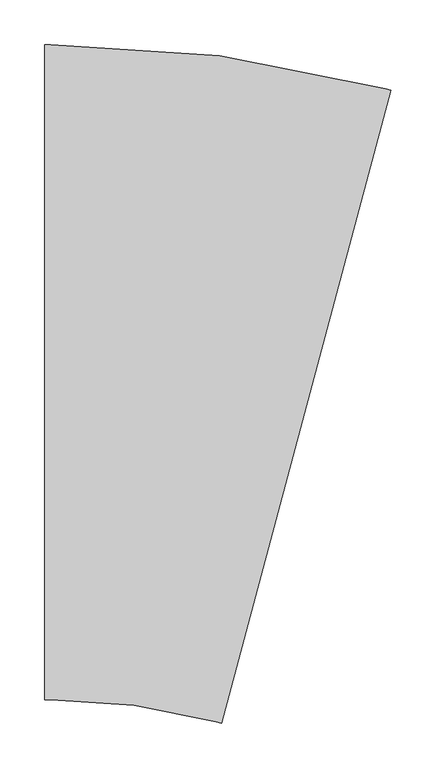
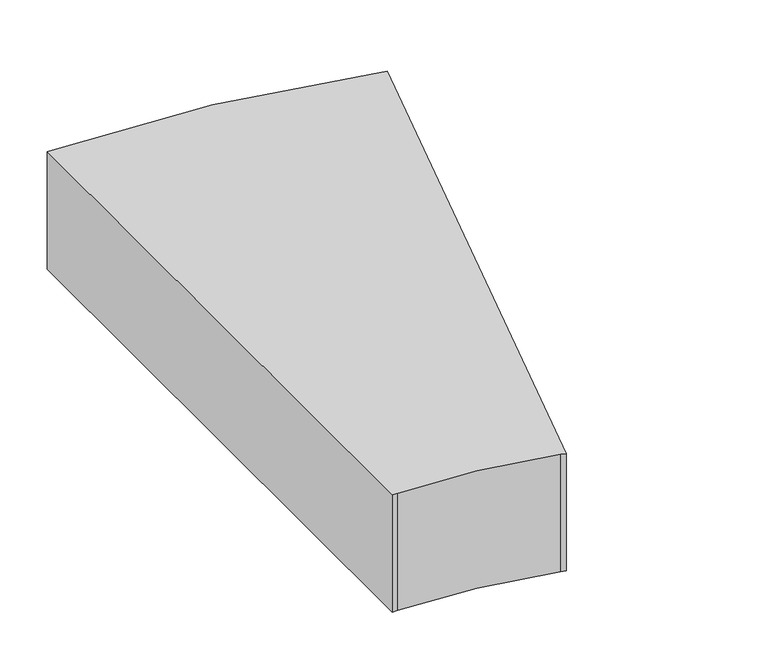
"""IFC4 building model written with IfcOpenShell, lengths in millimetres: furniture geometry, StanceHC-Flora-Narrow_Wedge_Connecting_Table : FATR15WC-P."""

from ifc_helpers import new_model, si_unit, point, frame, frame_2d, origin, place, context, project, spatial, polyline, circle_curve, trimmed, segment, composite_curve, outline, extrude, source, transform, mapped, element, save


def furniture_ce6262a8(model_context):
    return source(origin(), model_context, "Body", "SweptSolid", [
        extrude(outline(composite_curve([segment(trimmed(circle_curve(frame_2d((6.35, -1078.8919614)), 1444.0169614), [point((6.35, 365.125))], [point((380.0890911, 315.9213152))], False, "CARTESIAN"), True, "CONTINUOUS"), segment(polyline([(380.0890911, 315.9213152), (386.2227201, 314.2778143), (197.2201124, -391.0895204), (191.0864834, -389.4460194)]), True, "CONTINUOUS"), segment(trimmed(circle_curve(frame_2d((6.35, -1078.8919614)), 713.7669614), [point((191.0864834, -389.4460194))], [point((6.35, -365.125))], True, "CARTESIAN"), True, "CONTINUOUS"), segment(polyline([(6.35, -365.125), (0.0, -365.125), (0.0, 365.125), (6.35, 365.125)]), True, "CONTINUOUS")], self_intersect=False)), frame((0.0, 0.0, 203.9170953), z_axis=(0.0, 0.0, 1.0), x_axis=(1.0, 0.0, 0.0)), (0.0, 0.0, 1.0), 151.6829047),
    ])


if __name__ == "__main__":
    model = new_model("IFC4")
    model_context = context("Model", 3, world=origin())
    ifc_project = project(units=[si_unit("LENGTHUNIT", "METRE", prefix="MILLI")], contexts=[model_context])
    site = spatial("IfcSite", under=ifc_project)
    building = spatial("IfcBuilding", under=site)
    placement = place(None, origin())
    furniture_shape = furniture_ce6262a8(model_context)
    element("IfcFurniture", 1, ObjectType="StanceHC-Flora-Narrow_Wedge_Connecting_Table : FATR15WC-P", at=placement, inside=building, context=model_context, shape_type="MappedRepresentation", body=[
        mapped(furniture_shape, transform((0.0, 0.0, 0.0), x_axis=(1.0, 0.0, 0.0), y_axis=(0.0, 1.0, 0.0), z_axis=(0.0, 0.0, 1.0))),
    ])
    save(model, "model.ifc")
